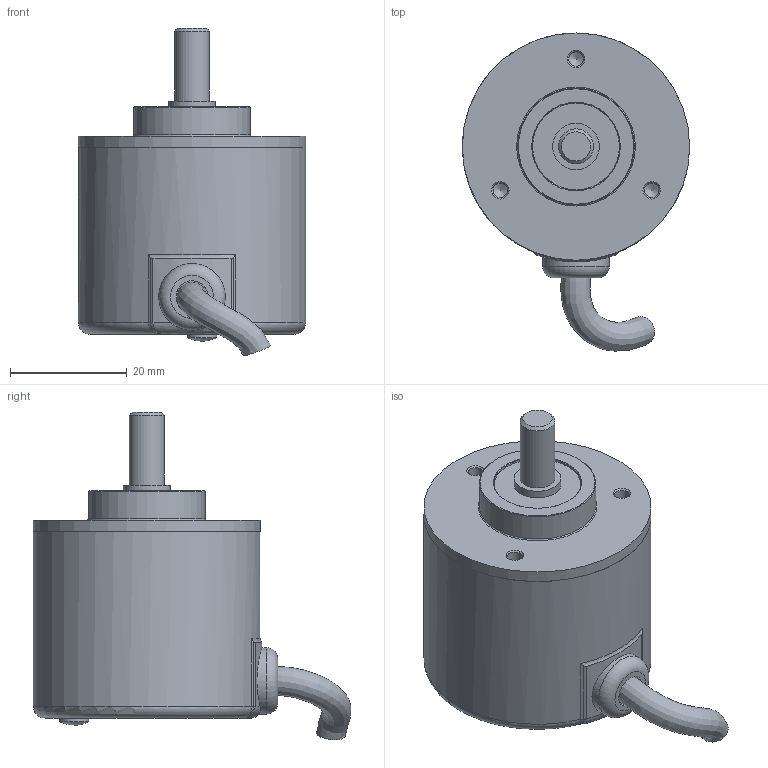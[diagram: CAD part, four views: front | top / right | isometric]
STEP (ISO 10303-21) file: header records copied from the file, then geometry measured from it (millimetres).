
FILE_DESCRIPTION(('STEP AP214'), '1');
FILE_NAME('ÈÄÌ39-4096-MT_êîððåêöèÿ', '2024-10-14T07:25:51', (' '), (' '), 'C3D Converter', 'C3D Toolkit', '');
FILE_SCHEMA(('AUTOMOTIVE_DESIGN { 1 0 10303 214 3 1 1}'));
Length unit declared in the file: millimetre
Products named in the file (1): ИДМ39-4096-MT
Bounding box: 39 x 54.54 x 56.18 mm (x, y, z)
Volume: 19930.2 mm3; surface area: 15464.6 mm2
Topology: 6 solids, 6 shells, 71 faces, 159 edges, 102 vertices
Faces by surface type: cylinder 23, plane 21, bspline 11, cone 9, torus 6, sphere 1
Full cylindrical faces by diameter (mm): 2.5 x3, 5 x1, 5.5 x1, 6 x1, 8 x1, 11.405 x1, 14.9 x1, 15 x1, 20 x1, 37 x2, 39 x2
Entity records: 3465 total; most frequent: CARTESIAN_POINT 1478, DIRECTION 270, ORIENTED_EDGE 238, AXIS2_PLACEMENT_3D 126, EDGE_CURVE 119, EDGE_LOOP 104, VERTEX_POINT 93, COLOUR_RGB 78
